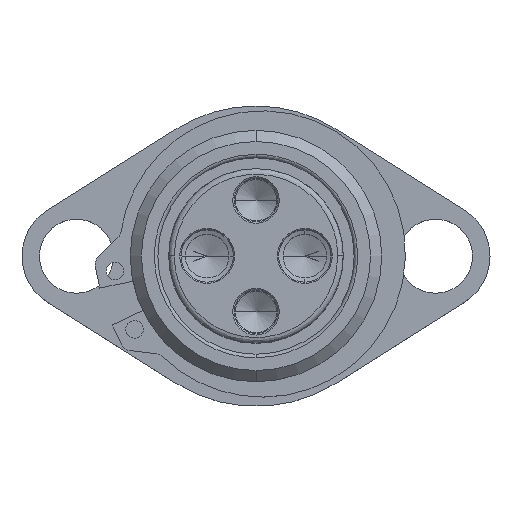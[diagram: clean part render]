
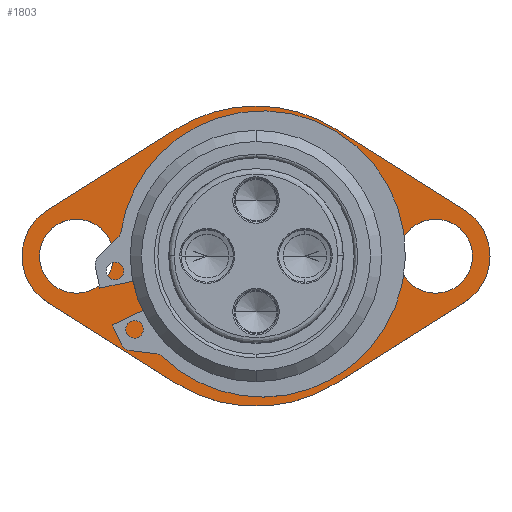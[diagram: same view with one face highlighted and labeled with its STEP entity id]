
A CAD part, top view. The second image highlights one B-rep face of the part: STEP entity #1803.
In plain terms, the highlighted planar face has unit normal (0, 0, 1) as drawn and (0, 1, 0) by its records, which use the part's own axes.
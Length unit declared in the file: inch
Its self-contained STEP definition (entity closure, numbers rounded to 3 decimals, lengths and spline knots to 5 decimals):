
#14 = ORIENTED_EDGE ( 'NONE', *, *, #1160, .F. ) ;
#25 = CIRCLE ( 'NONE', #3228, 0.265 ) ;
#36 = DIRECTION ( 'NONE',  ( 0., -1., 0. ) ) ;
#67 = ORIENTED_EDGE ( 'NONE', *, *, #1551, .T. ) ;
#73 = CARTESIAN_POINT ( 'NONE',  ( 0.57305, 0.25, -0.90952 ) ) ;
#79 = AXIS2_PLACEMENT_3D ( 'NONE', #4498, #1670, #2656 ) ;
#98 = DIRECTION ( 'NONE',  ( 0.846, 0., 0.533 ) ) ;
#102 = CARTESIAN_POINT ( 'NONE',  ( 0., 0.25, 0. ) ) ;
#183 = ORIENTED_EDGE ( 'NONE', *, *, #2808, .T. ) ;
#197 = FACE_OUTER_BOUND ( 'NONE', #5460, .T. ) ;
#262 = EDGE_CURVE ( 'NONE', #2871, #3422, #5154, .T. ) ;
#302 = EDGE_LOOP ( 'NONE', ( #627, #2089 ) ) ;
#352 = AXIS2_PLACEMENT_3D ( 'NONE', #2782, #4229, #2353 ) ;
#375 = DIRECTION ( 'NONE',  ( 0., -1., 0. ) ) ;
#412 = AXIS2_PLACEMENT_3D ( 'NONE', #4314, #36, #3889 ) ;
#477 = DIRECTION ( 'NONE',  ( 0.846, 0., -0.533 ) ) ;
#493 = LINE ( 'NONE', #4764, #2277 ) ;
#510 = DIRECTION ( 'NONE',  ( 0., -1., 0. ) ) ;
#570 = EDGE_CURVE ( 'NONE', #4380, #2842, #1852, .T. ) ;
#599 = DIRECTION ( 'NONE',  ( 0., 0., -1. ) ) ;
#606 = ORIENTED_EDGE ( 'NONE', *, *, #4325, .T. ) ;
#627 = ORIENTED_EDGE ( 'NONE', *, *, #2517, .T. ) ;
#666 = CARTESIAN_POINT ( 'NONE',  ( -1.285, 0.25, 0.265 ) ) ;
#773 = CIRCLE ( 'NONE', #352, 0.265 ) ;
#918 = FACE_BOUND ( 'NONE', #302, .T. ) ;
#939 = CIRCLE ( 'NONE', #412, 0.39 ) ;
#957 = VERTEX_POINT ( 'NONE', #2199 ) ;
#1009 = ORIENTED_EDGE ( 'NONE', *, *, #3285, .T. ) ;
#1105 = EDGE_LOOP ( 'NONE', ( #1700, #1009 ) ) ;
#1116 = AXIS2_PLACEMENT_3D ( 'NONE', #4576, #3681, #2282 ) ;
#1134 = FACE_BOUND ( 'NONE', #1105, .T. ) ;
#1160 = EDGE_CURVE ( 'NONE', #957, #3277, #5403, .T. ) ;
#1167 = LINE ( 'NONE', #2967, #5880 ) ;
#1176 = ORIENTED_EDGE ( 'NONE', *, *, #4995, .T. ) ;
#1240 = VERTEX_POINT ( 'NONE', #1732 ) ;
#1324 = DIRECTION ( 'NONE',  ( 0., 0., -1. ) ) ;
#1325 = EDGE_CURVE ( 'NONE', #3947, #4853, #773, .T. ) ;
#1334 = CARTESIAN_POINT ( 'NONE',  ( 1.285, 0.25, -0.265 ) ) ;
#1429 = AXIS2_PLACEMENT_3D ( 'NONE', #4233, #510, #3780 ) ;
#1463 = ORIENTED_EDGE ( 'NONE', *, *, #5642, .T. ) ;
#1551 = EDGE_CURVE ( 'NONE', #5590, #2681, #3225, .T. ) ;
#1670 = DIRECTION ( 'NONE',  ( 0., -1., 0. ) ) ;
#1700 = ORIENTED_EDGE ( 'NONE', *, *, #570, .T. ) ;
#1717 = CIRCLE ( 'NONE', #1429, 1.075 ) ;
#1732 = CARTESIAN_POINT ( 'NONE',  ( -1.4929, 0.25, 0.32997 ) ) ;
#1760 = CARTESIAN_POINT ( 'NONE',  ( 0., 0.25, -1.075 ) ) ;
#1803 = ADVANCED_FACE ( 'NONE', ( #5475, #197, #918, #1134 ), #2763, .T. ) ;
#1810 = CARTESIAN_POINT ( 'NONE',  ( 1.285, 0.25, 0.265 ) ) ;
#1852 = CIRCLE ( 'NONE', #79, 0.9 ) ;
#1882 = DIRECTION ( 'NONE',  ( 0., 0., 1. ) ) ;
#2019 = DIRECTION ( 'NONE',  ( 0., -1., 0. ) ) ;
#2089 = ORIENTED_EDGE ( 'NONE', *, *, #1325, .T. ) ;
#2199 = CARTESIAN_POINT ( 'NONE',  ( -0.57305, 0.25, -0.90952 ) ) ;
#2228 = DIRECTION ( 'NONE',  ( 0., -1., 0. ) ) ;
#2277 = VECTOR ( 'NONE', #477, 39.37008 ) ;
#2282 = DIRECTION ( 'NONE',  ( 0., 0., -1. ) ) ;
#2287 = CARTESIAN_POINT ( 'NONE',  ( 1.4929, 0.25, -0.32997 ) ) ;
#2353 = DIRECTION ( 'NONE',  ( 0., 0., -1. ) ) ;
#2389 = DIRECTION ( 'NONE',  ( 0., -1., 0. ) ) ;
#2517 = EDGE_CURVE ( 'NONE', #4853, #3947, #5846, .T. ) ;
#2607 = EDGE_CURVE ( 'NONE', #3277, #2681, #1717, .T. ) ;
#2656 = DIRECTION ( 'NONE',  ( 0., 0., -1. ) ) ;
#2657 = LINE ( 'NONE', #6081, #3915 ) ;
#2681 = VERTEX_POINT ( 'NONE', #4250 ) ;
#2707 = CARTESIAN_POINT ( 'NONE',  ( -1.285, 0.25, 0. ) ) ;
#2727 = DIRECTION ( 'NONE',  ( 0., 0., -1. ) ) ;
#2752 = AXIS2_PLACEMENT_3D ( 'NONE', #4119, #2228, #2727 ) ;
#2763 = PLANE ( 'NONE',  #4306 ) ;
#2782 = CARTESIAN_POINT ( 'NONE',  ( 1.285, 0.25, 0. ) ) ;
#2808 = EDGE_CURVE ( 'NONE', #3422, #2871, #25, .T. ) ;
#2842 = VERTEX_POINT ( 'NONE', #6016 ) ;
#2871 = VERTEX_POINT ( 'NONE', #4085 ) ;
#2897 = DIRECTION ( 'NONE',  ( 0., 0., -1. ) ) ;
#2955 = CARTESIAN_POINT ( 'NONE',  ( -1.285, 0.25, 0. ) ) ;
#2967 = CARTESIAN_POINT ( 'NONE',  ( -1.4929, 0.25, 0.32997 ) ) ;
#2974 = VERTEX_POINT ( 'NONE', #4383 ) ;
#3225 = LINE ( 'NONE', #73, #5178 ) ;
#3228 = AXIS2_PLACEMENT_3D ( 'NONE', #2707, #375, #1324 ) ;
#3251 = AXIS2_PLACEMENT_3D ( 'NONE', #102, #5258, #599 ) ;
#3277 = VERTEX_POINT ( 'NONE', #1760 ) ;
#3285 = EDGE_CURVE ( 'NONE', #2842, #4380, #6058, .T. ) ;
#3291 = VERTEX_POINT ( 'NONE', #4558 ) ;
#3422 = VERTEX_POINT ( 'NONE', #666 ) ;
#3681 = DIRECTION ( 'NONE',  ( 0., -1., 0. ) ) ;
#3780 = DIRECTION ( 'NONE',  ( 0., 0., -1. ) ) ;
#3889 = DIRECTION ( 'NONE',  ( 0., 0., -1. ) ) ;
#3915 = VECTOR ( 'NONE', #4648, 39.37008 ) ;
#3947 = VERTEX_POINT ( 'NONE', #1810 ) ;
#3983 = CARTESIAN_POINT ( 'NONE',  ( 0., 0.25, 0. ) ) ;
#4085 = CARTESIAN_POINT ( 'NONE',  ( -1.285, 0.25, -0.265 ) ) ;
#4119 = CARTESIAN_POINT ( 'NONE',  ( 0., 0.25, 0. ) ) ;
#4229 = DIRECTION ( 'NONE',  ( 0., -1., 0. ) ) ;
#4233 = CARTESIAN_POINT ( 'NONE',  ( 0., 0.25, 0. ) ) ;
#4250 = CARTESIAN_POINT ( 'NONE',  ( 0.57305, 0.25, -0.90952 ) ) ;
#4257 = CARTESIAN_POINT ( 'NONE',  ( -1.285, 0.25, 0. ) ) ;
#4279 = VERTEX_POINT ( 'NONE', #5620 ) ;
#4306 = AXIS2_PLACEMENT_3D ( 'NONE', #4637, #6035, #1882 ) ;
#4314 = CARTESIAN_POINT ( 'NONE',  ( 1.285, 0.25, 0. ) ) ;
#4317 = AXIS2_PLACEMENT_3D ( 'NONE', #3983, #4475, #5824 ) ;
#4325 = EDGE_CURVE ( 'NONE', #1240, #4279, #1167, .T. ) ;
#4336 = CIRCLE ( 'NONE', #4317, 1.075 ) ;
#4340 = CIRCLE ( 'NONE', #5099, 0.39 ) ;
#4380 = VERTEX_POINT ( 'NONE', #5300 ) ;
#4383 = CARTESIAN_POINT ( 'NONE',  ( 1.4929, 0.25, 0.32997 ) ) ;
#4448 = EDGE_CURVE ( 'NONE', #3291, #4279, #4336, .T. ) ;
#4475 = DIRECTION ( 'NONE',  ( 0., -1., 0. ) ) ;
#4498 = CARTESIAN_POINT ( 'NONE',  ( 0., 0.25, 0. ) ) ;
#4558 = CARTESIAN_POINT ( 'NONE',  ( 0.57305, 0.25, 0.90952 ) ) ;
#4576 = CARTESIAN_POINT ( 'NONE',  ( 1.285, 0.25, 0. ) ) ;
#4637 = CARTESIAN_POINT ( 'NONE',  ( -1.285, 0.25, 0. ) ) ;
#4648 = DIRECTION ( 'NONE',  ( -0.846, 0., 0.533 ) ) ;
#4693 = ORIENTED_EDGE ( 'NONE', *, *, #5098, .F. ) ;
#4764 = CARTESIAN_POINT ( 'NONE',  ( 0.57305, 0.25, 0.90952 ) ) ;
#4816 = DIRECTION ( 'NONE',  ( -0.846, 0., -0.533 ) ) ;
#4853 = VERTEX_POINT ( 'NONE', #1334 ) ;
#4938 = EDGE_LOOP ( 'NONE', ( #5054, #183 ) ) ;
#4943 = ORIENTED_EDGE ( 'NONE', *, *, #2607, .F. ) ;
#4995 = EDGE_CURVE ( 'NONE', #957, #5733, #2657, .T. ) ;
#5054 = ORIENTED_EDGE ( 'NONE', *, *, #262, .T. ) ;
#5098 = EDGE_CURVE ( 'NONE', #1240, #5733, #4340, .T. ) ;
#5099 = AXIS2_PLACEMENT_3D ( 'NONE', #2955, #2019, #2897 ) ;
#5154 = CIRCLE ( 'NONE', #5699, 0.265 ) ;
#5178 = VECTOR ( 'NONE', #4816, 39.37008 ) ;
#5258 = DIRECTION ( 'NONE',  ( 0., -1., 0. ) ) ;
#5300 = CARTESIAN_POINT ( 'NONE',  ( 0., 0.25, -0.9 ) ) ;
#5403 = CIRCLE ( 'NONE', #3251, 1.075 ) ;
#5460 = EDGE_LOOP ( 'NONE', ( #14, #1176, #4693, #606, #5688, #1463, #5618, #67, #4943 ) ) ;
#5475 = FACE_BOUND ( 'NONE', #4938, .T. ) ;
#5590 = VERTEX_POINT ( 'NONE', #2287 ) ;
#5618 = ORIENTED_EDGE ( 'NONE', *, *, #5622, .F. ) ;
#5620 = CARTESIAN_POINT ( 'NONE',  ( -0.57305, 0.25, 0.90952 ) ) ;
#5622 = EDGE_CURVE ( 'NONE', #5590, #2974, #939, .T. ) ;
#5628 = DIRECTION ( 'NONE',  ( 0., 0., -1. ) ) ;
#5642 = EDGE_CURVE ( 'NONE', #3291, #2974, #493, .T. ) ;
#5688 = ORIENTED_EDGE ( 'NONE', *, *, #4448, .F. ) ;
#5699 = AXIS2_PLACEMENT_3D ( 'NONE', #4257, #2389, #5628 ) ;
#5733 = VERTEX_POINT ( 'NONE', #5739 ) ;
#5739 = CARTESIAN_POINT ( 'NONE',  ( -1.4929, 0.25, -0.32997 ) ) ;
#5824 = DIRECTION ( 'NONE',  ( 0., 0., -1. ) ) ;
#5846 = CIRCLE ( 'NONE', #1116, 0.265 ) ;
#5880 = VECTOR ( 'NONE', #98, 39.37008 ) ;
#6016 = CARTESIAN_POINT ( 'NONE',  ( 0., 0.25, 0.9 ) ) ;
#6035 = DIRECTION ( 'NONE',  ( 0., 1., 0. ) ) ;
#6058 = CIRCLE ( 'NONE', #2752, 0.9 ) ;
#6081 = CARTESIAN_POINT ( 'NONE',  ( -1.4929, 0.25, -0.32997 ) ) ;
